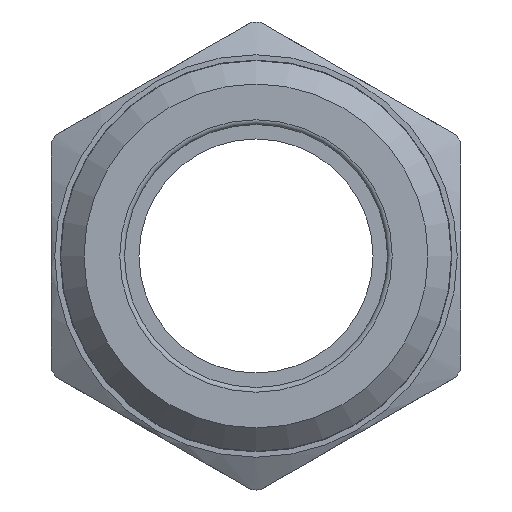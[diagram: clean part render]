
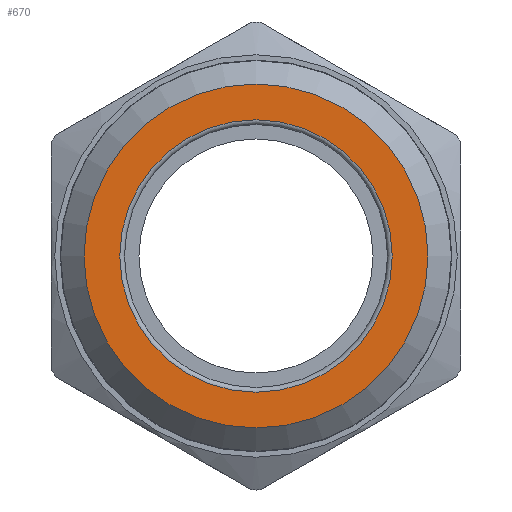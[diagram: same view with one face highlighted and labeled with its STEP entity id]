
A CAD part, front view. The second image highlights one B-rep face of the part: STEP entity #670.
In plain terms, the highlighted planar face has unit normal (0, -1, 0).
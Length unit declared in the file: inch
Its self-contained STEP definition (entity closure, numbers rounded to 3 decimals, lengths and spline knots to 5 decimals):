
#52=FACE_BOUND('',#131,.T.);
#62=PLANE('',#754);
#87=FACE_OUTER_BOUND('',#130,.T.);
#130=EDGE_LOOP('',(#518));
#131=EDGE_LOOP('',(#519,#520));
#240=CIRCLE('',#751,0.291);
#241=CIRCLE('',#752,0.291);
#243=CIRCLE('',#755,0.3675);
#301=VERTEX_POINT('',#1118);
#302=VERTEX_POINT('',#1120);
#303=VERTEX_POINT('',#1125);
#381=EDGE_CURVE('',#301,#302,#240,.T.);
#382=EDGE_CURVE('',#302,#301,#241,.T.);
#384=EDGE_CURVE('',#303,#303,#243,.T.);
#518=ORIENTED_EDGE('',*,*,#384,.F.);
#519=ORIENTED_EDGE('',*,*,#382,.F.);
#520=ORIENTED_EDGE('',*,*,#381,.F.);
#670=ADVANCED_FACE('',(#87,#52),#62,.T.);
#751=AXIS2_PLACEMENT_3D('',#1121,#904,#905);
#752=AXIS2_PLACEMENT_3D('',#1122,#906,#907);
#754=AXIS2_PLACEMENT_3D('',#1124,#910,#911);
#755=AXIS2_PLACEMENT_3D('',#1126,#912,#913);
#904=DIRECTION('center_axis',(0.,-1.,0.));
#905=DIRECTION('ref_axis',(0.,0.,1.));
#906=DIRECTION('center_axis',(0.,-1.,0.));
#907=DIRECTION('ref_axis',(0.,0.,1.));
#910=DIRECTION('center_axis',(0.,-1.,0.));
#911=DIRECTION('ref_axis',(0.,0.,-1.));
#912=DIRECTION('center_axis',(0.,1.,0.));
#913=DIRECTION('ref_axis',(0.,0.,1.));
#1118=CARTESIAN_POINT('',(0.,-1.,0.291));
#1120=CARTESIAN_POINT('',(0.,-1.,-0.291));
#1121=CARTESIAN_POINT('Origin',(0.,-1.,0.));
#1122=CARTESIAN_POINT('Origin',(0.,-1.,0.));
#1124=CARTESIAN_POINT('Origin',(0.,-1.,-0.281));
#1125=CARTESIAN_POINT('',(0.,-1.,-0.3675));
#1126=CARTESIAN_POINT('Origin',(0.,-1.,0.));
